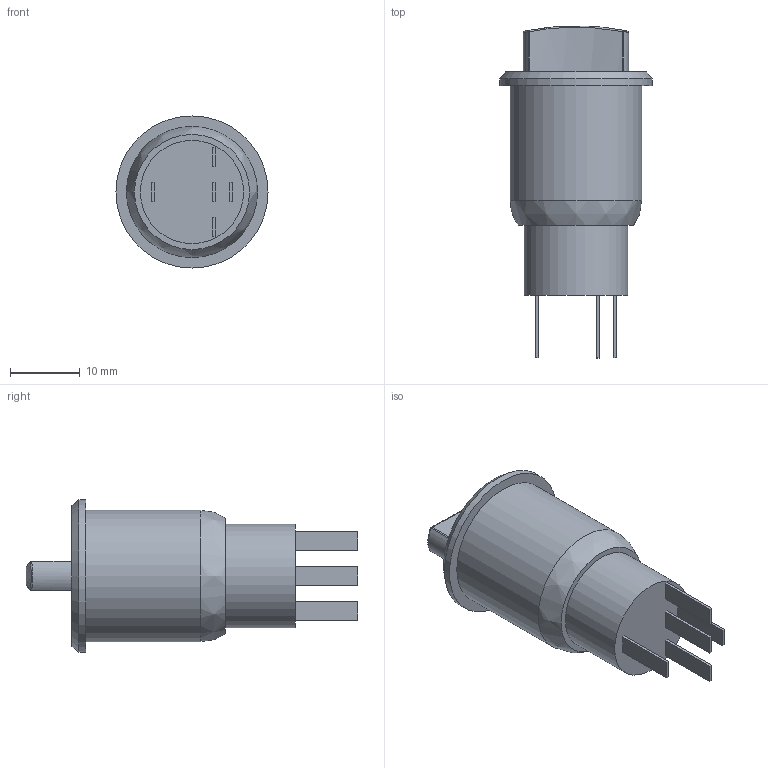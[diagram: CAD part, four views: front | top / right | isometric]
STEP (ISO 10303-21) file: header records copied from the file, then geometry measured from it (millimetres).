
FILE_DESCRIPTION(('FreeCAD Model'),'2;1');
FILE_NAME('Open CASCADE Shape Model','2023-05-06T18:44:57',('Author'),( ''),'Open CASCADE STEP processor 7.5','FreeCAD','Unknown');
FILE_SCHEMA(('AUTOMOTIVE_DESIGN { 1 0 10303 214 1 1 1 1 }'));
Length unit declared in the file: millimetre
Products named in the file (1): on_off switcher green LED_
Bounding box: 21.8 x 47.58 x 21.8 mm (x, y, z)
Volume: 8014.9 mm3; surface area: 3898.4 mm2
Topology: 9 solids, 9 shells, 101 faces, 216 edges, 130 vertices
Faces by surface type: plane 48, cylinder 24, bspline 19, sphere 4, torus 4, cone 2
Full cylindrical faces by diameter (mm): 12.3 x1, 12.6 x1, 14.8 x1, 15.9 x1, 16.2 x1, 18.8 x1, 21.8 x1
Entity records: 4460 total; most frequent: CARTESIAN_POINT 1328, ORIENTED_EDGE 388, DIRECTION 385, EDGE_CURVE 194, AXIS2_PLACEMENT_3D 149, VERTEX_POINT 124, EDGE_LOOP 116, FACE_OUTER_BOUND 109
